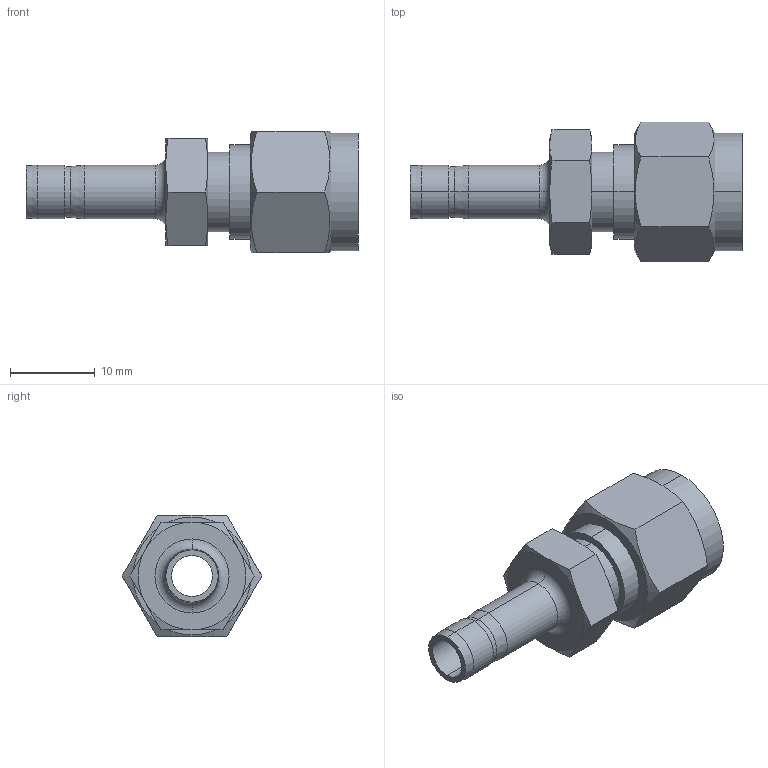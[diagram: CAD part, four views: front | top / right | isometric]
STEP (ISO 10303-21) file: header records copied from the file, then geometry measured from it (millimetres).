
FILE_DESCRIPTION (( 'STEP AP203' ), '1' );
FILE_NAME ('DRE04-04 SS.STEP', '2009-09-08T08:37:26', ( ' ' ), ( '' ), 'SwSTEP 2.0', 'SolidWorks 2008', '' );
FILE_SCHEMA (( 'CONFIG_CONTROL_DESIGN' ));
Length unit declared in the file: millimetre
Products named in the file (1): DRE04-04 SS
Bounding box: 39.2 x 16.5 x 14.29 mm (x, y, z)
Volume: 2869.5 mm3; surface area: 2400 mm2
Topology: 1 solids, 1 shells, 59 faces, 130 edges, 78 vertices
Faces by surface type: cone 22, plane 19, cylinder 16, torus 2
Entity records: 1817 total; most frequent: CARTESIAN_POINT 476, DIRECTION 262, ORIENTED_EDGE 260, EDGE_CURVE 130, AXIS2_PLACEMENT_3D 112, VERTEX_POINT 78, EDGE_LOOP 66, FACE_OUTER_BOUND 59
